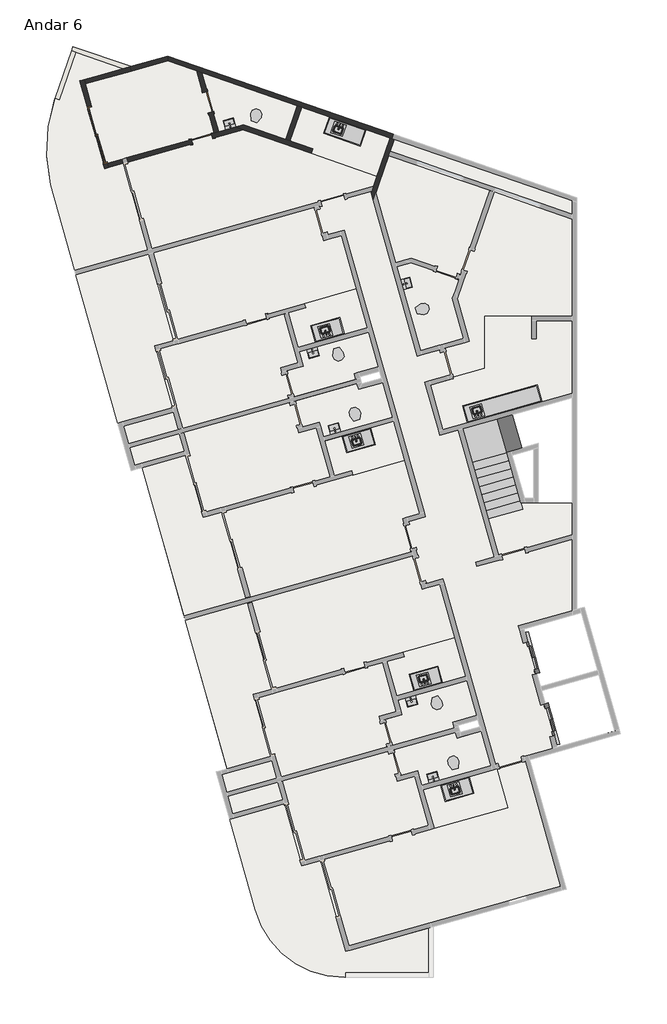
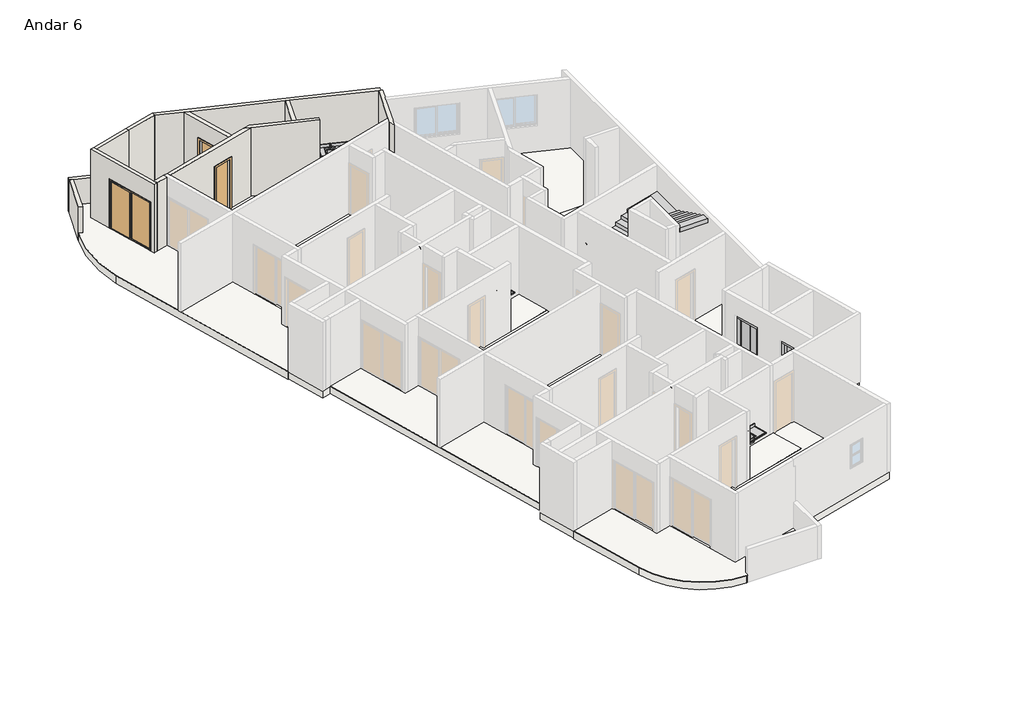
# One storey, part 3 of 3: 18 flow terminals, 18 slabs, 12 walls, 8 proxies, 3 doors, 1 stair flight.
"""IFC4 building model written with IfcOpenShell, lengths in millimetres."""

from ifc_helpers import new_model, si_unit, point, frame, frame_2d, origin, place, context, project, spatial, polyline, circle_curve, trimmed, segment, composite_curve, outline, extrude, faceted_brep, transform, mapped, element, save
from components import specialty_equipment_6c35da8b, specialty_equipment_77dfa124, rf_bancada_cozinha_rf_bancada_cozinha_340fef9f, rf_bancada_cozinha_rf_bancada_cozinha_cfb88ba1, rf_bancada_cozinha_rf_bancada_cozinha_2f873929, rf_bancada_cozinha_rf_bancada_cozinha_798ceddf, p3_70cm_ef4d15e3, p3_70cm_0a698c7c, p4_correr_200cm_eaaa0877, flow_terminal_cab7bae2, flow_terminal_3fb7dc42, flow_terminal_e42b9071, flow_terminal_c6e042c4, ap_01_creme_cr37_13e02e03, ap_01_creme_cr37_5ce6e54d

model = new_model("IFC4")

# Units and contexts
model_context = context("Model", 3, world=origin())
ifc_project = project(units=[si_unit("LENGTHUNIT", "METRE", prefix="MILLI")], contexts=[model_context])

# Site, building, storey
site = spatial("IfcSite", under=ifc_project)
building = spatial("IfcBuilding", under=site)
storey = spatial("IfcBuildingStorey", under=building, Name="Andar 6", Elevation=68150.0)

# Proxies
placement = place(None, origin())
specialty_equipment_shape = specialty_equipment_6c35da8b(model_context)
element("IfcBuildingElementProxy", 1, Name="Porta do elevador : Porta do elevador", ObjectType="Porta do elevador : Porta do elevador", at=placement, inside=storey, context=model_context, shape_type="MappedRepresentation", body=[
    mapped(specialty_equipment_shape, transform((-76594.4337486, 15747.4543727, 68150.0), x_axis=(0.27176796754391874, -0.9623628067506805, 0.0), y_axis=(0.9623628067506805, 0.27176796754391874, 0.0), z_axis=(0.0, 0.0, 1.0))),
])
specialty_equipment_2_shape = specialty_equipment_77dfa124(model_context)
element("IfcBuildingElementProxy", 2, Name="Porta do elevador : Porta do elevador", ObjectType="Porta do elevador : Porta do elevador", at=placement, inside=storey, context=model_context, shape_type="MappedRepresentation", body=[
    mapped(specialty_equipment_2_shape, transform((-75942.1906265, 13437.7836365, 68150.0), x_axis=(-0.27176796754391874, 0.9623628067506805, 0.0), y_axis=(-0.9623628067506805, -0.27176796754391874, 0.0), z_axis=(0.0, 0.0, 1.0))),
])
rf_bancada_cozinha_rf_bancada_cozinha_shape = rf_bancada_cozinha_rf_bancada_cozinha_340fef9f(model_context)
element("IfcBuildingElementProxy", 3, Name="RF_Bancada Cozinha : RF_Bancada Cozinha", ObjectType="RF_Bancada Cozinha : RF_Bancada Cozinha", at=placement, inside=storey, context=model_context, shape_type="MappedRepresentation", body=[
    mapped(rf_bancada_cozinha_rf_bancada_cozinha_shape, transform((-82760.548019, 26451.5820971, 68900.0), x_axis=(-0.9623628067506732, -0.27176796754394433, 0.0), y_axis=(0.27176796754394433, -0.9623628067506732, 0.0), z_axis=(0.0, 0.0, 1.0))),
])
element("IfcBuildingElementProxy", 4, Name="RF_Bancada Cozinha : RF_Bancada Cozinha", ObjectType="RF_Bancada Cozinha : RF_Bancada Cozinha", at=placement, inside=storey, context=model_context, shape_type="MappedRepresentation", body=[
    mapped(rf_bancada_cozinha_rf_bancada_cozinha_shape, transform((-79472.1556117, 14806.9921354, 68900.0), x_axis=(-0.962362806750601, -0.2717679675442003, 0.0), y_axis=(0.2717679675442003, -0.962362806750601, 0.0), z_axis=(0.0, 0.0, 1.0))),
])
rf_bancada_cozinha_rf_bancada_cozinha_2_shape = rf_bancada_cozinha_rf_bancada_cozinha_cfb88ba1(model_context)
element("IfcBuildingElementProxy", 5, Name="RF_Bancada Cozinha : RF_Bancada Cozinha", ObjectType="RF_Bancada Cozinha : RF_Bancada Cozinha", at=placement, inside=storey, context=model_context, shape_type="MappedRepresentation", body=[
    mapped(rf_bancada_cozinha_rf_bancada_cozinha_2_shape, transform((-81877.3021245, 23323.9029751, 68900.0), x_axis=(-0.9623628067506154, -0.27176796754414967, 0.0), y_axis=(0.27176796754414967, -0.9623628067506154, 0.0), z_axis=(0.0, 0.0, 1.0))),
])
element("IfcBuildingElementProxy", 6, Name="RF_Bancada Cozinha : RF_Bancada Cozinha", ObjectType="RF_Bancada Cozinha : RF_Bancada Cozinha", at=placement, inside=storey, context=model_context, shape_type="MappedRepresentation", body=[
    mapped(rf_bancada_cozinha_rf_bancada_cozinha_2_shape, transform((-78588.9097172, 11679.3130134, 68900.0), x_axis=(-0.9623628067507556, -0.27176796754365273, 0.0), y_axis=(0.27176796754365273, -0.9623628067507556, 0.0), z_axis=(0.0, 0.0, 1.0))),
])
rf_bancada_cozinha_rf_bancada_cozinha_3_shape = rf_bancada_cozinha_rf_bancada_cozinha_2f873929(model_context)
element("IfcBuildingElementProxy", 7, Name="RF_Bancada Cozinha : RF_Bancada Cozinha", ObjectType="RF_Bancada Cozinha : RF_Bancada Cozinha", at=placement, inside=storey, context=model_context, shape_type="MappedRepresentation", body=[
    mapped(rf_bancada_cozinha_rf_bancada_cozinha_3_shape, transform((-82030.0326121, 33293.9830661, 68900.0), x_axis=(-0.9449109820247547, 0.32732741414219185, 0.0), y_axis=(-0.32732741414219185, -0.9449109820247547, 0.0), z_axis=(0.0, 0.0, 1.0))),
])
rf_bancada_cozinha_rf_bancada_cozinha_4_shape = rf_bancada_cozinha_rf_bancada_cozinha_798ceddf(model_context)
element("IfcBuildingElementProxy", 8, Name="RF_Bancada Cozinha : RF_Bancada Cozinha", ObjectType="RF_Bancada Cozinha : RF_Bancada Cozinha", at=placement, inside=storey, context=model_context, shape_type="MappedRepresentation", body=[
    mapped(rf_bancada_cozinha_rf_bancada_cozinha_4_shape, transform((-76157.6622331, 24197.9763092, 68900.0), x_axis=(-0.9623628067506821, -0.27176796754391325, 0.0), y_axis=(0.27176796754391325, -0.9623628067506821, 0.0), z_axis=(0.0, 0.0, 1.0))),
])

# Doors
p3_70cm_shape = p3_70cm_ef4d15e3(model_context)
element("IfcDoor", 9, ObjectType="M_Folha única1 : P3 - 70CM", at=placement, inside=storey, context=model_context, shape_type="MappedRepresentation", body=[
    mapped(p3_70cm_shape, transform((-87513.806232, 32980.5300491, 68150.0), x_axis=(0.9623628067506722, 0.2717679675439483, 0.0), y_axis=(-0.2717679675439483, 0.9623628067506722, 0.0), z_axis=(0.0, 0.0, 1.0))),
])
p3_70cm_2_shape = p3_70cm_0a698c7c(model_context)
element("IfcDoor", 10, ObjectType="M_Folha única1 : P3 - 70CM", at=placement, inside=storey, context=model_context, shape_type="MappedRepresentation", body=[
    mapped(p3_70cm_2_shape, transform((-87314.304722, 34205.8663896, 68150.0), x_axis=(-0.2717679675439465, 0.9623628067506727, 0.0), y_axis=(-0.9623628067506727, -0.2717679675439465, 0.0), z_axis=(0.0, 0.0, 1.0))),
])
p4_correr_200cm_shape = p4_correr_200cm_eaaa0877(model_context)
element("IfcDoor", 11, ObjectType="Porta de correr dupla envidraçada sem revestimento : P4 - CORRER - 200CM", at=placement, inside=storey, context=model_context, shape_type="MappedRepresentation", body=[
    mapped(p4_correr_200cm_shape, transform((-91005.8131296, 33111.4415743, 68150.0), x_axis=(0.2717679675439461, -0.9623628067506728, 0.0), y_axis=(0.9623628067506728, 0.2717679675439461, 0.0), z_axis=(0.0, 0.0, 1.0))),
])

# Flow terminals
flow_terminal_shape = flow_terminal_cab7bae2(model_context)
element("IfcFlowTerminal", 12, ObjectType="RF_Pias : Pia da Bancada", at=placement, inside=storey, context=model_context, shape_type="MappedRepresentation", body=[
    mapped(flow_terminal_shape, transform((-83380.5102831, 26570.4992214, 68002.9), x_axis=(-0.9623628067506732, -0.27176796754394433, 0.0), y_axis=(0.27176796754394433, -0.9623628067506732, 0.0), z_axis=(0.0, 0.0, 1.0))),
])
element("IfcFlowTerminal", 13, ObjectType="RF_Pias : Pia da Bancada", at=placement, inside=storey, context=model_context, shape_type="MappedRepresentation", body=[
    mapped(flow_terminal_shape, transform((-80092.1178758, 14925.9092597, 68002.9), x_axis=(-0.962362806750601, -0.2717679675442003, 0.0), y_axis=(0.2717679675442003, -0.962362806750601, 0.0), z_axis=(0.0, 0.0, 1.0))),
])
element("IfcFlowTerminal", 14, ObjectType="RF_Pias : Pia da Bancada", at=placement, inside=storey, context=model_context, shape_type="MappedRepresentation", body=[
    mapped(flow_terminal_shape, transform((-78306.8185143, 23885.0542694, 68002.9), x_axis=(-0.9623628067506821, -0.27176796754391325, 0.0), y_axis=(0.27176796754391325, -0.9623628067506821, 0.0), z_axis=(0.0, 0.0, 1.0))),
])
flow_terminal_2_shape = flow_terminal_3fb7dc42(model_context)
element("IfcFlowTerminal", 15, ObjectType="Deca_Cuba de Apoio Retangular_L7300 : L.7300.17_Branco Gelo GE17", at=placement, inside=storey, context=model_context, shape_type="MappedRepresentation", body=[
    mapped(flow_terminal_2_shape, transform((-83090.0822283, 23308.7374016, 68900.0), x_axis=(-0.9623628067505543, -0.2717679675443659, 0.0), y_axis=(0.2717679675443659, -0.9623628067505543, 0.0), z_axis=(0.0, 0.0, 1.0))),
])
element("IfcFlowTerminal", 16, ObjectType="Deca_Cuba de Apoio Retangular_L7300 : L.7300.17_Branco Gelo GE17", at=placement, inside=storey, context=model_context, shape_type="MappedRepresentation", body=[
    mapped(flow_terminal_2_shape, transform((-79801.689821, 11664.1474399, 68900.0), x_axis=(-0.9623628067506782, -0.2717679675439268, 0.0), y_axis=(0.2717679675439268, -0.9623628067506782, 0.0), z_axis=(0.0, 0.0, 1.0))),
])
element("IfcFlowTerminal", 17, ObjectType="Deca_Cuba de Apoio Retangular_L7300 : L.7300.17_Branco Gelo GE17", at=placement, inside=storey, context=model_context, shape_type="MappedRepresentation", body=[
    mapped(flow_terminal_2_shape, transform((-80677.0991462, 28154.8020678, 68900.0), x_axis=(-0.2717679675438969, 0.9623628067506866, 0.0), y_axis=(-0.9623628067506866, -0.2717679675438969, 0.0), z_axis=(0.0, 0.0, 1.0))),
])
element("IfcFlowTerminal", 18, ObjectType="Deca_Cuba de Apoio Retangular_L7300 : L.7300.17_Branco Gelo GE17", at=placement, inside=storey, context=model_context, shape_type="MappedRepresentation", body=[
    mapped(flow_terminal_2_shape, transform((-86597.4204814, 33488.7004496, 68900.0), x_axis=(-0.9623628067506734, -0.27176796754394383, 0.0), y_axis=(0.27176796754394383, -0.9623628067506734, 0.0), z_axis=(0.0, 0.0, 1.0))),
])
flow_terminal_3_shape = flow_terminal_e42b9071(model_context)
element("IfcFlowTerminal", 19, ObjectType="Deca_Cuba de Apoio Retangular_L7300 : L.7300.17_Branco Gelo GE17", at=placement, inside=storey, context=model_context, shape_type="MappedRepresentation", body=[
    mapped(flow_terminal_3_shape, transform((-83802.1143033, 25830.1279553, 68900.0), x_axis=(-0.9623628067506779, -0.2717679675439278, 0.0), y_axis=(0.2717679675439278, -0.9623628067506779, 0.0), z_axis=(0.0, 0.0, 1.0))),
])
element("IfcFlowTerminal", 20, ObjectType="Deca_Cuba de Apoio Retangular_L7300 : L.7300.17_Branco Gelo GE17", at=placement, inside=storey, context=model_context, shape_type="MappedRepresentation", body=[
    mapped(flow_terminal_3_shape, transform((-80513.721896, 14185.5379936, 68900.0), x_axis=(-0.962362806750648, -0.27176796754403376, 0.0), y_axis=(0.27176796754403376, -0.962362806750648, 0.0), z_axis=(0.0, 0.0, 1.0))),
])
flow_terminal_4_shape = flow_terminal_c6e042c4(model_context)
element("IfcFlowTerminal", 21, ObjectType="RF_Pias : Pia da Bancada", at=placement, inside=storey, context=model_context, shape_type="MappedRepresentation", body=[
    mapped(flow_terminal_4_shape, transform((-82343.483233, 22898.2626745, 68002.9), x_axis=(-0.9623628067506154, -0.27176796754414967, 0.0), y_axis=(0.27176796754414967, -0.9623628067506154, 0.0), z_axis=(0.0, 0.0, 1.0))),
])
element("IfcFlowTerminal", 22, ObjectType="RF_Pias : Pia da Bancada", at=placement, inside=storey, context=model_context, shape_type="MappedRepresentation", body=[
    mapped(flow_terminal_4_shape, transform((-79055.0908257, 11253.6727129, 68002.9), x_axis=(-0.9623628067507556, -0.27176796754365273, 0.0), y_axis=(0.27176796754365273, -0.9623628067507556, 0.0), z_axis=(0.0, 0.0, 1.0))),
])
element("IfcFlowTerminal", 23, ObjectType="RF_Pias : Pia da Bancada", at=placement, inside=storey, context=model_context, shape_type="MappedRepresentation", body=[
    mapped(flow_terminal_4_shape, transform((-82939.3392028, 33309.5545572, 68002.9), x_axis=(-0.9449109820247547, 0.32732741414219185, 0.0), y_axis=(-0.32732741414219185, -0.9449109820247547, 0.0), z_axis=(0.0, 0.0, 1.0))),
])
ap_01_creme_cr37_shape = ap_01_creme_cr37_13e02e03(model_context)
element("IfcFlowTerminal", 24, ObjectType="Deca_Shared_Assento_P.900 : AP.01_Creme CR37", at=placement, inside=storey, context=model_context, shape_type="MappedRepresentation", body=[
    mapped(ap_01_creme_cr37_shape, transform((-83017.5301151, 25983.4740486, 68537.8723674), x_axis=(0.9623628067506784, 0.2717679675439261, 0.0), y_axis=(0.0, 0.0, 1.0), z_axis=(0.2717679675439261, -0.9623628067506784, 0.0))),
])
element("IfcFlowTerminal", 25, ObjectType="Deca_Shared_Assento_P.900 : AP.01_Creme CR37", at=placement, inside=storey, context=model_context, shape_type="MappedRepresentation", body=[
    mapped(ap_01_creme_cr37_shape, transform((-79729.1377078, 14338.8840869, 68537.8723674), x_axis=(0.962362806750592, 0.2717679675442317, 0.0), y_axis=(0.0, 0.0, 1.0), z_axis=(0.2717679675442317, -0.962362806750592, 0.0))),
])
element("IfcFlowTerminal", 26, ObjectType="Deca_Shared_Assento_P.900 : AP.01_Creme CR37", at=placement, inside=storey, context=model_context, shape_type="MappedRepresentation", body=[
    mapped(ap_01_creme_cr37_shape, transform((-80349.5164684, 27236.3600819, 68537.8723674), x_axis=(-0.271767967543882, 0.9623628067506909, 0.0), y_axis=(0.0, 0.0, 1.0), z_axis=(0.9623628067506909, 0.271767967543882, 0.0))),
])
element("IfcFlowTerminal", 27, ObjectType="Deca_Shared_Assento_P.900 : AP.01_Creme CR37", at=placement, inside=storey, context=model_context, shape_type="MappedRepresentation", body=[
    mapped(ap_01_creme_cr37_shape, transform((-85777.8760768, 33566.4131555, 68537.8723674), x_axis=(-0.9449109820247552, 0.3273274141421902, 0.0), y_axis=(0.0, 0.0, 1.0000000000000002), z_axis=(0.3273274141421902, 0.9449109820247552, 0.0))),
])
ap_01_creme_cr37_2_shape = ap_01_creme_cr37_5ce6e54d(model_context)
element("IfcFlowTerminal", 28, ObjectType="Deca_Shared_Assento_P.900 : AP.01_Creme CR37", at=placement, inside=storey, context=model_context, shape_type="MappedRepresentation", body=[
    mapped(ap_01_creme_cr37_2_shape, transform((-82341.1813229, 23588.4422577, 68537.8723674), x_axis=(0.9623628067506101, 0.27176796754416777, 0.0), y_axis=(0.0, 0.0, -1.0), z_axis=(-0.27176796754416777, 0.9623628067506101, 0.0))),
])
element("IfcFlowTerminal", 29, ObjectType="Deca_Shared_Assento_P.900 : AP.01_Creme CR37", at=placement, inside=storey, context=model_context, shape_type="MappedRepresentation", body=[
    mapped(ap_01_creme_cr37_2_shape, transform((-79052.7889156, 11943.852296, 68537.8723674), x_axis=(0.9623628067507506, 0.2717679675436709, 0.0), y_axis=(0.0, 0.0, -1.0000000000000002), z_axis=(-0.2717679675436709, 0.9623628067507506, 0.0))),
])

# Slabs
element("IfcSlab", 30, ObjectType="TZ_Piso de Áreas Molhadas", at=placement, inside=storey, context=model_context, shape_type="SweptSolid", body=[
    extrude(outline(composite_curve([segment(polyline([(-90765.4571774, 31984.341749), (-90143.7425806, 32159.9118263), (-89328.438678, 29272.823406), (-91766.0080564, 28584.4621444), (-92573.2320087, 31442.9384962)]), True, "CONTINUOUS"), segment(trimmed(circle_curve(frame_2d((-87414.5556743, 32622.5665107)), 5291.829908), [point((-92573.2320087, 31442.9384962))], [point((-92422.0860726, 34333.7366032))], False, "CARTESIAN"), True, "CONTINUOUS"), segment(polyline([(-92422.0860726, 34333.7366032), (-92280.2794148, 34284.6132387), (-91729.7010481, 35873.9929322), (-90151.0501028, 35327.1311202), (-91594.3494784, 34919.5483093), (-90765.4571774, 31984.341749)]), True, "CONTINUOUS")], self_intersect=False)), frame((0.0, 0.0, 68150.0), z_axis=(0.0, 0.0, 1.0), x_axis=(1.0, 0.0, 0.0)), (0.0, 0.0, 1.0), 20.0),
])
element("IfcSlab", 31, ObjectType="TZ_Piso de Áreas Molhadas", at=placement, inside=storey, context=model_context, shape_type="SweptSolid", body=[
    extrude(outline(polyline([(-88472.3695802, 26241.3805647), (-89094.084177, 26065.8104874), (-88509.7830468, 23996.7304529), (-90325.6378284, 23483.9392686), (-91725.2428613, 28440.1077234), (-89287.6734828, 29128.468985), (-88472.3695802, 26241.3805647)])), frame((0.0, 0.0, 68150.0), z_axis=(0.0, 0.0, 1.0), x_axis=(1.0, 0.0, 0.0)), (0.0, 0.0, 1.0), 20.0),
])
element("IfcSlab", 32, ObjectType="TZ_Piso de Áreas Molhadas", at=placement, inside=storey, context=model_context, shape_type="SweptSolid", body=[
    extrude(outline(polyline([(-86855.3501733, 20515.3218645), (-86040.0462707, 17628.2334443), (-88109.1263052, 17043.9323141), (-89508.731338, 22000.1007688), (-88061.3659003, 22408.8318218), (-87477.0647701, 20339.7517872), (-86855.3501733, 20515.3218645)])), frame((0.0, 0.0, 68150.0), z_axis=(0.0, 0.0, 1.0), x_axis=(1.0, 0.0, 0.0)), (0.0, 0.0, 1.0), 20.0),
])
element("IfcSlab", 33, ObjectType="TZ_Piso de Áreas Molhadas", at=placement, inside=storey, context=model_context, shape_type="SweptSolid", body=[
    extrude(outline(polyline([(-78926.5637691, 28284.9851582), (-79146.9727346, 27648.7205404), (-78771.1333302, 26317.8283554), (-80214.6775403, 25910.176404), (-81004.3851492, 28706.6252933), (-80530.2499593, 28840.5194505), (-78926.5637691, 28284.9851582)])), frame((0.0, 0.0, 68150.0), z_axis=(0.0, 0.0, 1.0), x_axis=(1.0, 0.0, 0.0)), (0.0, 0.0, 1.0), 20.0),
])
element("IfcSlab", 34, ObjectType="TZ_Piso de Áreas Molhadas", at=placement, inside=storey, context=model_context, shape_type="SweptSolid", body=[
    extrude(outline(polyline([(-78070.9150345, 27060.8243598), (-76493.6479314, 27060.8243598), (-76493.6479314, 26310.8243598), (-76343.6479314, 26310.8243598), (-76343.6479314, 26910.8243598), (-75147.8282189, 26910.8243598), (-75147.8282189, 24483.4871675), (-79467.3156296, 23263.6786855), (-79888.5559793, 24755.3410359), (-79127.7601479, 24970.1871785), (-79141.3485461, 25018.3053183), (-78070.9150345, 25320.5920836), (-78070.9150345, 27060.8243598)])), frame((0.0, 0.0, 68150.0), z_axis=(0.0, 0.0, 1.0), x_axis=(1.0, 0.0, 0.0)), (0.0, 0.0, 1.0), 20.0),
])
element("IfcSlab", 35, ObjectType="TZ_Piso de Áreas Molhadas", at=placement, inside=storey, context=model_context, shape_type="SweptSolid", body=[
    extrude(outline(polyline([(-84719.4810559, 32955.6762822), (-86137.8721095, 33447.0223292), (-86956.7711455, 33215.7680402), (-87515.4733556, 35194.1992432), (-84326.6881589, 34089.5694606), (-84719.4810559, 32955.6762822)])), frame((0.0, 0.0, 68150.0), z_axis=(0.0, 0.0, 1.0), x_axis=(1.0, 0.0, 0.0)), (0.0, 0.0, 1.0), 20.0),
])
element("IfcSlab", 36, ObjectType="TZ_Piso de Áreas Molhadas", at=placement, inside=storey, context=model_context, shape_type="SweptSolid", body=[
    extrude(outline(polyline([(-84577.7444086, 32906.57717), (-84184.9515116, 34040.4703485), (-81226.8582774, 33015.7547641), (-81668.7502865, 31740.1249383), (-83870.9147351, 32502.9785914), (-83821.815623, 32644.7152387), (-84577.7444086, 32906.57717)])), frame((0.0, 0.0, 68150.0), z_axis=(0.0, 0.0, 1.0), x_axis=(1.0, 0.0, 0.0)), (0.0, 0.0, 1.0), 20.0),
])
element("IfcSlab", 37, ObjectType="TZ_Piso de Áreas Molhadas", at=placement, inside=storey, context=model_context, shape_type="SweptSolid", body=[
    extrude(outline(polyline([(-81949.8925784, 26524.6420501), (-81623.7710174, 25369.806682), (-82432.1557751, 25141.5215893), (-82377.8021816, 24949.0490279), (-84456.5058441, 24362.030218), (-84701.0970149, 25228.1567441), (-84123.6793309, 25391.2175246), (-84259.5633146, 25872.398928), (-81949.8925784, 26524.6420501)])), frame((0.0, 0.0, 68150.0), z_axis=(0.0, 0.0, 1.0), x_axis=(1.0, 0.0, 0.0)), (0.0, 0.0, 1.0), 20.0),
])
element("IfcSlab", 38, ObjectType="TZ_Piso de Áreas Molhadas", at=placement, inside=storey, context=model_context, shape_type="SweptSolid", body=[
    extrude(outline(polyline([(-84089.7975819, 27479.0039186), (-82357.5445298, 27968.1862602), (-81990.6577736, 26668.9964711), (-84300.3285098, 26016.753349), (-84626.4500708, 27171.5887171), (-84049.0323868, 27334.6494976), (-84089.7975819, 27479.0039186)])), frame((0.0, 0.0, 68150.0), z_axis=(0.0, 0.0, 1.0), x_axis=(1.0, 0.0, 0.0)), (0.0, 0.0, 1.0), 20.0),
])
element("IfcSlab", 39, ObjectType="TZ_Piso de Áreas Molhadas", at=placement, inside=storey, context=model_context, shape_type="SweptSolid", body=[
    extrude(outline(polyline([(-84171.1494782, 23351.5492709), (-84415.740649, 24217.675797), (-82337.0369864, 24804.6946069), (-82282.6833929, 24612.2220455), (-81474.2986352, 24840.5071383), (-81148.1770742, 23685.6717702), (-83457.8478104, 23033.4286481), (-83593.7317942, 23514.6100514), (-84171.1494782, 23351.5492709)])), frame((0.0, 0.0, 68150.0), z_axis=(0.0, 0.0, 1.0), x_axis=(1.0, 0.0, 0.0)), (0.0, 0.0, 1.0), 20.0),
])
element("IfcSlab", 40, ObjectType="TZ_Piso de Áreas Molhadas", at=placement, inside=storey, context=model_context, shape_type="SweptSolid", body=[
    extrude(outline(composite_curve([segment(polyline([(-79945.4990038, 5119.4122055), (-82713.5540687, 5119.4122055), (-82713.5540687, 4969.4122055), (-82751.3896972, 4969.4122055)]), True, "CONTINUOUS"), segment(trimmed(circle_curve(frame_2d((-82751.3896972, 8069.4122055)), 3100.0), [point((-82751.3896972, 4969.4122055))], [point((-85734.7143981, 7226.9315061))], False, "CARTESIAN"), True, "CONTINUOUS"), segment(polyline([(-85734.7143981, 7226.9315061), (-86588.8282733, 10251.4506708), (-84772.9735093, 10764.2419177), (-84188.6722855, 8695.1618243), (-83566.957766, 8870.7319029), (-82710.8885369, 5839.2889958), (-79945.4990038, 6620.2256515), (-79945.4990038, 5119.4122055)]), True, "CONTINUOUS")], self_intersect=False)), frame((0.0, 0.0, 68150.0), z_axis=(0.0, 0.0, 1.0), x_axis=(1.0, 0.0, 0.0)), (0.0, 0.0, 1.0), 20.0),
])
element("IfcSlab", 41, ObjectType="TZ_Piso de Áreas Molhadas", at=placement, inside=storey, context=model_context, shape_type="SweptSolid", body=[
    extrude(outline(polyline([(-78185.906228, 13195.9171766), (-77859.7846669, 12041.0818085), (-80169.4554031, 11388.8386864), (-80305.3393869, 11870.0200898), (-80882.7570709, 11706.9593092), (-81127.3482417, 12573.0858353), (-79048.6445791, 13160.1046452), (-78994.2909856, 12967.6320839), (-78185.906228, 13195.9171766)])), frame((0.0, 0.0, 68150.0), z_axis=(0.0, 0.0, 1.0), x_axis=(1.0, 0.0, 0.0)), (0.0, 0.0, 1.0), 20.0),
])
element("IfcSlab", 42, ObjectType="TZ_Piso de Áreas Molhadas", at=placement, inside=storey, context=model_context, shape_type="SweptSolid", body=[
    extrude(outline(polyline([(-77307.7782946, 10638.3027935), (-79761.8034518, 9945.2944763), (-80128.690208, 11244.4842654), (-77674.6650508, 11937.4925826), (-77307.7782946, 10638.3027935)])), frame((0.0, 0.0, 68150.0), z_axis=(0.0, 0.0, 1.0), x_axis=(1.0, 0.0, 0.0)), (0.0, 0.0, 1.0), 20.0),
])
element("IfcSlab", 43, ObjectType="TZ_Piso de Áreas Molhadas", at=placement, inside=storey, context=model_context, shape_type="SweptSolid", body=[
    extrude(outline(polyline([(-81107.9410005, 23543.1910314), (-80740.5251229, 22242.1275601), (-82472.778175, 21752.9452185), (-82513.5433702, 21897.2996395), (-83090.9610542, 21734.238859), (-83418.0192411, 22888.8089065), (-81107.9410005, 23543.1910314)])), frame((0.0, 0.0, 68150.0), z_axis=(0.0, 0.0, 1.0), x_axis=(1.0, 0.0, 0.0)), (0.0, 0.0, 1.0), 20.0),
])
element("IfcSlab", 44, ObjectType="TZ_Piso de Áreas Molhadas", at=placement, inside=storey, context=model_context, shape_type="SweptSolid", body=[
    extrude(outline(polyline([(-85183.9771729, 14596.790603), (-85805.6917697, 14421.2205257), (-85221.3906395, 12352.1404912), (-86668.7560772, 11943.4094383), (-88068.36111, 16899.5778931), (-85999.2810755, 17483.8790233), (-85183.9771729, 14596.790603)])), frame((0.0, 0.0, 68150.0), z_axis=(0.0, 0.0, 1.0), x_axis=(1.0, 0.0, 0.0)), (0.0, 0.0, 1.0), 20.0),
])
element("IfcSlab", 45, ObjectType="TZ_Piso de Áreas Molhadas", at=placement, inside=storey, context=model_context, shape_type="SweptSolid", body=[
    extrude(outline(polyline([(-81412.7046076, 13583.5667824), (-80835.2869236, 13746.6275629), (-80971.1709074, 14227.8089663), (-78661.5001712, 14880.0520884), (-78335.3786101, 13725.2167203), (-79143.7633678, 13496.9316276), (-79089.4097743, 13304.4590662), (-81168.1134368, 12717.4402563), (-81412.7046076, 13583.5667824)])), frame((0.0, 0.0, 68150.0), z_axis=(0.0, 0.0, 1.0), x_axis=(1.0, 0.0, 0.0)), (0.0, 0.0, 1.0), 20.0),
])
element("IfcSlab", 46, ObjectType="TZ_Piso de Áreas Molhadas", at=placement, inside=storey, context=model_context, shape_type="SweptSolid", body=[
    extrude(outline(polyline([(-78701.7362448, 15022.5328272), (-81012.8731576, 14371.8995868), (-81338.0576635, 15526.9987554), (-80760.6399795, 15690.059536), (-80801.4051746, 15834.413957), (-79069.1521225, 16323.5962985), (-78701.7362448, 15022.5328272)])), frame((0.0, 0.0, 68150.0), z_axis=(0.0, 0.0, 1.0), x_axis=(1.0, 0.0, 0.0)), (0.0, 0.0, 1.0), 20.0),
])
element("IfcSlab", 47, ObjectType="TZ_Laje 30cm", at=placement, inside=storey, context=model_context, shape_type="SweptSolid", body=[
    extrude(outline(composite_curve([segment(polyline([(-82713.5540687, 4969.4122055), (-82751.3896972, 4969.4122055)]), True, "CONTINUOUS"), segment(trimmed(circle_curve(frame_2d((-82751.3896972, 8069.4122055)), 3100.0), [point((-82751.3896972, 4969.4122055))], [point((-85734.7143981, 7226.9315061))], False, "CARTESIAN"), True, "CONTINUOUS"), segment(polyline([(-85734.7143981, 7226.9315061), (-86588.8282747, 10251.4506758), (-86574.3928326, 10255.5271953), (-87018.7334595, 11828.9903844), (-86664.6795577, 11928.9739962), (-89512.8078575, 22014.5362109), (-89866.8617594, 21914.5525991), (-90311.2023863, 23488.0157882), (-90325.6378284, 23483.9392686), (-92573.2320087, 31442.9384962)]), True, "CONTINUOUS"), segment(trimmed(circle_curve(frame_2d((-87414.5556743, 32622.5665107)), 5291.829908), [point((-92573.2320087, 31442.9384962))], [point((-92426.4466323, 34320.9224218))], False, "CARTESIAN"), True, "CONTINUOUS"), segment(polyline([(-92426.4466323, 34320.9224218), (-92422.0160621, 34333.7123509), (-92403.1178425, 34327.1658026), (-91809.986912, 36039.3839237), (-89899.2062586, 35377.468778), (-88658.6666899, 35727.7929124), (-75017.8282189, 31002.4584964), (-75017.8282189, 17238.3098681), (-74750.7083414, 17313.7436086), (-73565.8000029, 13117.8417711), (-76592.4310301, 12263.1315132), (-75369.6745845, 7933.2050117), (-79815.4990038, 6677.7193903), (-79815.4990038, 4989.4122055), (-82713.5540687, 4989.4122055), (-82713.5540687, 4969.4122055)]), True, "CONTINUOUS")], self_intersect=False), holes=[polyline([(-81583.0058223, 25225.452261), (-82247.0361589, 25037.9323634), (-82179.094167, 24797.3416617), (-81515.0638304, 24984.8615593), (-81583.0058223, 25225.452261)]), polyline([(-78294.613415, 13580.8622993), (-78958.6437516, 13393.3424017), (-78890.7017597, 13152.7517), (-78226.6714231, 13340.2715976), (-78294.613415, 13580.8622993)]), polyline([(-74840.4856705, 17153.3066079), (-76760.3994699, 16611.1295126), (-76221.8794944, 14704.1660107), (-75646.150803, 12665.442005), (-73726.2370035, 13207.6191002), (-74270.7319215, 15135.7405865), (-74840.4856705, 17153.3066079)]), polyline([(-77952.9130698, 20291.1915783), (-76801.2963825, 20616.4041949), (-76858.5413412, 20819.1154254), (-75147.8282189, 20819.1154254), (-75147.8282189, 24343.0530162), (-78807.9060206, 23309.4595541), (-77952.9130698, 20291.1915783)])]), frame((0.0, 0.0, 67850.0), z_axis=(0.0, 0.0, 1.0), x_axis=(1.0, 0.0, 0.0)), (0.0, 0.0, 1.0), 300.0),
])

# Stair flight
element("IfcStairFlight", 48, ObjectType="Profundidade de 150mm", at=placement, inside=storey, context=model_context, shape_type="Brep", body=[
    faceted_brep([(-78029.0944782, 20560.1246789, 68288.0952381), (-77952.7808761, 20290.7249124, 68288.0952381), (-76802.2714069, 20616.6328483, 68288.0952381), (-76878.3664628, 20886.0945229, 68288.0952381), (-78029.0944782, 20560.1246789, 68150.0), (-77952.7808761, 20290.7249124, 68150.0), (-76802.2714069, 20616.6328483, 68150.0), (-76878.3664628, 20886.0945229, 68150.0), (-78105.4080802, 20829.5244453, 68426.1904762), (-78029.0944782, 20560.1246789, 68426.1904762), (-76878.3664628, 20886.0945229, 68426.1904762), (-76954.4615188, 21155.5561975, 68426.1904762), (-78105.4080802, 20829.5244453, 68258.939228), (-78045.2065482, 20617.0029783, 68150.0), (-76894.4323913, 20942.985893, 68150.0), (-76954.4615188, 21155.5561975, 68258.939228), (-78181.7216823, 21098.9242117, 68564.2857143), (-78105.4080802, 20829.5244453, 68564.2857143), (-76954.4615188, 21155.5561975, 68564.2857143), (-77030.5565747, 21425.017872, 68564.2857143), (-78181.7216823, 21098.9242117, 68397.0344661), (-77030.5565747, 21425.017872, 68397.0344661), (-78258.0352843, 21368.3239781, 68702.3809524), (-78181.7216823, 21098.9242117, 68702.3809524), (-77030.5565747, 21425.017872, 68702.3809524), (-77106.6516307, 21694.4795466, 68702.3809524), (-78258.0352843, 21368.3239781, 68535.1297042), (-77106.6516307, 21694.4795466, 68535.1297042), (-78334.3488864, 21637.7237445, 68840.4761905), (-78258.0352843, 21368.3239781, 68840.4761905), (-77106.6516307, 21694.4795466, 68840.4761905), (-77182.7466866, 21963.9412211, 68840.4761905), (-78334.3488864, 21637.7237445, 68673.2249423), (-77182.7466866, 21963.9412211, 68673.2249423), (-78410.6624885, 21907.1235109, 68978.5714286), (-78334.3488864, 21637.7237445, 68978.5714286), (-77182.7466866, 21963.9412211, 68978.5714286), (-77258.8417426, 22233.4028957, 68978.5714286), (-78410.6624885, 21907.1235109, 68811.3201804), (-77258.8417426, 22233.4028957, 68811.3201804), (-78486.9760905, 22176.5232773, 69116.6666667), (-78410.6624885, 21907.1235109, 69116.6666667), (-77258.8417426, 22233.4028957, 69116.6666667), (-77334.9367985, 22502.8645702, 69116.6666667), (-78486.9760905, 22176.5232773, 68949.4154185), (-77334.9367985, 22502.8645702, 68949.4154185), (-77650.6473278, 23620.8332322, 69254.7619048), (-78803.8582924, 23295.1703972, 69254.7619048), (-78572.8230038, 22479.5772253, 69254.7619048), (-78486.9760905, 22176.5232773, 69254.7619048), (-77334.9367985, 22502.8645702, 69254.7619048), (-77337.6544782, 22512.4881983, 69254.7619048), (-77650.6473278, 23620.8332322, 69104.7619048), (-78803.8582924, 23295.1703972, 69104.7619048), (-78572.8230038, 22479.5772253, 69104.7619048), (-77420.5378643, 22805.9881601, 69104.7619048), (-77337.6544782, 22512.4881983, 69104.7619048), (-77650.6473278, 23620.8332322, 69392.8571429), (-77337.6544782, 22512.4881983, 69392.8571429), (-77303.5536842, 22522.118146, 69392.8571429), (-77083.6709973, 22584.2122653, 69392.8571429), (-77396.6638468, 23692.5572992, 69392.8571429), (-77616.5465338, 23630.4631799, 69392.8571429), (-77396.6638468, 23692.5572992, 69219.0904432), (-77616.5465338, 23630.4631799, 69104.7619048), (-77303.5536842, 22522.118146, 69104.7619048), (-77083.6709973, 22584.2122653, 69219.0904432), (-77127.202261, 23768.6523301, 69530.952381), (-77396.6638468, 23692.5572992, 69530.952381), (-77083.6709973, 22584.2122653, 69530.952381), (-76814.2094114, 22660.3072962, 69530.952381), (-77127.202261, 23768.6523301, 69359.1976509), (-76814.2094114, 22660.3072962, 69359.1976509), (-76857.7406751, 23844.747361, 69669.047619), (-77127.202261, 23768.6523301, 69669.047619), (-76814.2094114, 22660.3072962, 69669.047619), (-76544.7478255, 22736.4023271, 69669.047619), (-76857.7406751, 23844.747361, 69499.3048586), (-76544.7478255, 22736.4023271, 69499.3048586), (-76588.2790892, 23920.842392, 69807.1428571), (-76857.7406751, 23844.747361, 69807.1428571), (-76544.7478255, 22736.4023271, 69807.1428571), (-76275.2862396, 22812.497358, 69807.1428571), (-76588.2790892, 23920.842392, 69639.4120663), (-75975.593386, 22897.1295956, 69795.2380952), (-76275.2862396, 22812.497358, 69795.2380952), (-75147.8282189, 22779.1154254, 69945.2380952), (-75147.8282189, 24327.6207947, 69945.2380952), (-76288.5862355, 24005.4746296, 69945.2380952), (-76588.2790892, 23920.842392, 69945.2380952), (-76275.2862396, 22812.497358, 69945.2380952), (-76275.2862396, 22779.1154254, 69945.2380952), (-75147.8282189, 22779.1154254, 69795.2380952), (-75147.8282189, 24327.6207947, 69795.2380952), (-76288.5862355, 24005.4746296, 69795.2380952), (-76275.2862396, 22779.1154254, 69795.2380952), (-75147.8282189, 22779.1154254, 70083.3333333), (-76275.2862396, 22779.1154254, 70083.3333333), (-76275.2862396, 22744.1370326, 70083.3333333), (-76275.2862396, 22499.1154254, 70083.3333333), (-75147.8282189, 22499.1154254, 70083.3333333), (-75147.8282189, 22744.1370326, 70083.3333333), (-75147.8282189, 22499.1154254, 69916.0820852), (-75147.8282189, 22744.1370326, 69795.2380952), (-76275.2862396, 22744.1370326, 69795.2380952), (-76275.2862396, 22499.1154254, 69916.0820852), (-75147.8282189, 22219.1154254, 70221.4285714), (-75147.8282189, 22499.1154254, 70221.4285714), (-76275.2862396, 22499.1154254, 70221.4285714), (-76275.2862396, 22219.1154254, 70221.4285714), (-75147.8282189, 22219.1154254, 70054.1773233), (-76275.2862396, 22219.1154254, 70054.1773233), (-75147.8282189, 21939.1154254, 70359.5238095), (-75147.8282189, 22219.1154254, 70359.5238095), (-76275.2862396, 22219.1154254, 70359.5238095), (-76275.2862396, 21939.1154254, 70359.5238095), (-75147.8282189, 21939.1154254, 70192.2725614), (-76275.2862396, 21939.1154254, 70192.2725614), (-75147.8282189, 21659.1154254, 70497.6190476), (-75147.8282189, 21939.1154254, 70497.6190476), (-76275.2862396, 21939.1154254, 70497.6190476), (-76275.2862396, 21659.1154254, 70497.6190476), (-75147.8282189, 21659.1154254, 70330.3677995), (-76275.2862396, 21659.1154254, 70330.3677995), (-75147.8282189, 21379.1154254, 70635.7142857), (-75147.8282189, 21659.1154254, 70635.7142857), (-76275.2862396, 21659.1154254, 70635.7142857), (-76275.2862396, 21379.1154254, 70635.7142857), (-75147.8282189, 21379.1154254, 70468.4630376), (-76275.2862396, 21379.1154254, 70468.4630376), (-75147.8282189, 21099.1154254, 70773.8095238), (-75147.8282189, 21379.1154254, 70773.8095238), (-76275.2862396, 21379.1154254, 70773.8095238), (-76275.2862396, 21099.1154254, 70773.8095238), (-75147.8282189, 21099.1154254, 70606.5582757), (-76275.2862396, 21099.1154254, 70606.5582757), (-75147.8282189, 20819.1154254, 70911.9047619), (-75147.8282189, 21099.1154254, 70911.9047619), (-76275.2862396, 21099.1154254, 70911.9047619), (-76275.2862396, 20819.1154254, 70911.9047619), (-75147.8282189, 20819.1154254, 70744.6535138), (-76275.2862396, 20819.1154254, 70744.6535138), (-76275.2862396, 23958.3777566, 69795.2380952)], [[[0, 1, 2, 3]], [[1, 0, 4, 5]], [[2, 1, 5, 6]], [[3, 2, 6, 7]], [[8, 9, 10, 11]], [[4, 0, 9, 8, 12, 13]], [[0, 3, 10, 9]], [[3, 7, 14, 15, 11, 10]], [[16, 17, 18, 19]], [[17, 16, 20, 12, 8]], [[8, 11, 18, 17]], [[19, 18, 11, 15, 21]], [[22, 23, 24, 25]], [[23, 22, 26, 20, 16]], [[16, 19, 24, 23]], [[25, 24, 19, 21, 27]], [[28, 29, 30, 31]], [[29, 28, 32, 26, 22]], [[22, 25, 30, 29]], [[31, 30, 25, 27, 33]], [[34, 35, 36, 37]], [[35, 34, 38, 32, 28]], [[28, 31, 36, 35]], [[37, 36, 31, 33, 39]], [[40, 41, 42, 43]], [[41, 40, 44, 38, 34]], [[34, 37, 42, 41]], [[43, 42, 37, 39, 45]], [[46, 47, 48, 49, 50, 51]], [[47, 46, 52, 53]], [[40, 49, 48, 47, 53, 54, 44]], [[40, 43, 50, 49]], [[51, 50, 43, 45, 55, 56]], [[57, 58, 59, 60, 61, 62]], [[46, 57, 62, 61, 63, 64, 52]], [[46, 51, 58, 57]], [[58, 51, 56, 65, 66, 60, 59]], [[67, 68, 69, 70]], [[68, 67, 71, 63, 61]], [[61, 60, 69, 68]], [[70, 69, 60, 66, 72]], [[73, 74, 75, 76]], [[74, 73, 77, 71, 67]], [[67, 70, 75, 74]], [[76, 75, 70, 72, 78]], [[79, 80, 81, 82]], [[80, 79, 83, 77, 73]], [[73, 76, 81, 80]], [[82, 81, 76, 78, 84, 85]], [[86, 87, 88, 89, 90, 91]], [[87, 86, 92, 93]], [[79, 89, 88, 87, 93, 94, 83]], [[79, 82, 90, 89]], [[91, 90, 82, 85, 95]], [[96, 97, 98, 99, 100, 101]], [[86, 96, 101, 100, 102, 103, 92]], [[86, 91, 97, 96]], [[97, 91, 95, 104, 105, 99, 98]], [[106, 107, 108, 109]], [[107, 106, 110, 102, 100]], [[100, 99, 108, 107]], [[109, 108, 99, 105, 111]], [[112, 113, 114, 115]], [[113, 112, 116, 110, 106]], [[106, 109, 114, 113]], [[115, 114, 109, 111, 117]], [[118, 119, 120, 121]], [[119, 118, 122, 116, 112]], [[112, 115, 120, 119]], [[121, 120, 115, 117, 123]], [[124, 125, 126, 127]], [[125, 124, 128, 122, 118]], [[118, 121, 126, 125]], [[127, 126, 121, 123, 129]], [[130, 131, 132, 133]], [[131, 130, 134, 128, 124]], [[124, 127, 132, 131]], [[133, 132, 127, 129, 135]], [[136, 137, 138, 139]], [[137, 136, 140, 134, 130]], [[130, 133, 138, 137]], [[139, 138, 133, 135, 141]], [[136, 139, 141, 140]], [[5, 4, 13, 14, 7, 6]], [[54, 55, 45, 39, 33, 27, 21, 15, 14, 13, 12, 20, 26, 32, 38, 44]], [[55, 54, 53, 52, 64, 65, 56]], [[65, 64, 63, 71, 77, 83, 94, 142, 84, 78, 72, 66]], [[142, 94, 93, 92, 103, 104, 95, 85, 84]], [[104, 103, 102, 110, 116, 122, 128, 134, 140, 141, 135, 129, 123, 117, 111, 105]]]),
])

# Walls
element("IfcWall", 49, ObjectType="Básica .15 - Externa", at=placement, inside=storey, context=model_context, shape_type="Brep", body=[
    faceted_brep([(-88662.6343714, 35591.588263, 68150.0), (-87688.240739, 35254.0477389, 68150.0), (-87515.4733556, 35194.1992432, 68150.0), (-84326.6881589, 34089.5694606, 68150.0), (-84184.9515116, 34040.4703485, 68150.0), (-81226.8582774, 33015.7547641, 68150.0), (-81156.3583355, 32991.3328194, 68150.0), (-81156.3583355, 32991.3328194, 69450.0), (-81085.1216301, 32966.655652, 69450.0), (-81085.1216301, 32966.655652, 70750.0), (-81156.3583355, 32991.3328194, 70750.0), (-81156.3583355, 32991.3328194, 71050.0), (-81226.8582774, 33015.7547641, 71050.0), (-84184.9515116, 34040.4703485, 71050.0), (-84326.6881589, 34089.5694606, 71050.0), (-87515.4733556, 35194.1992432, 71050.0), (-87688.240739, 35254.0477389, 71050.0), (-88662.6343714, 35591.588263, 71050.0), (-88658.0562773, 35748.7474739, 68150.0), (-88658.0562773, 35748.7474739, 71050.0), (-81107.2592234, 33133.0694667, 71050.0), (-81107.2592234, 33133.0694667, 70750.0), (-81036.022518, 33108.3922993, 70750.0), (-81036.022518, 33108.3922993, 69450.0), (-81107.2592234, 33133.0694667, 69450.0), (-81107.2592234, 33133.0694667, 68150.0)], [[[0, 1, 2, 3, 4, 5, 6, 7, 8, 9, 10, 11, 12, 13, 14, 15, 16, 17]], [[18, 19, 20, 21, 22, 23, 24, 25]], [[6, 5, 4, 3, 2, 1, 0, 18, 25]], [[17, 16, 15, 14, 13, 12, 11, 20, 19]], [[0, 17, 19, 18]], [[7, 6, 25, 24]], [[23, 8, 7, 24]], [[11, 10, 21, 20]], [[21, 10, 9, 22]], [[9, 8, 23, 22]]]),
])
element("IfcWall", 50, ObjectType="Básica .15 -  Interna", at=placement, inside=storey, context=model_context, shape_type="Brep", body=[
    faceted_brep([(-81789.2550074, 30934.0017027, 68150.0), (-81703.3880158, 31181.8778654, 68150.0), (-81272.8781344, 32424.6503839, 68150.0), (-81223.7790223, 32566.3870312, 68150.0), (-81085.1216301, 32966.655652, 68150.0), (-81085.1216301, 32966.655652, 69450.0), (-81085.1216301, 32966.655652, 70750.0), (-81085.1216301, 32966.655652, 71050.0), (-81223.7790223, 32566.3870312, 71050.0), (-81272.8781344, 32424.6503839, 71050.0), (-81703.3880158, 31181.8778654, 71050.0), (-81789.2550074, 30934.0017027, 71050.0), (-81860.5472267, 31186.4559595, 68150.0), (-81860.5472267, 31186.4559595, 71050.0), (-81845.4155775, 31230.1371819, 71050.0), (-81785.5670817, 31402.9045654, 71050.0), (-81226.8582774, 33015.7547641, 71050.0), (-81226.8582774, 33015.7547641, 68150.0), (-81785.5670817, 31402.9045654, 68150.0), (-81845.4155775, 31230.1371819, 68150.0), (-81156.3583355, 32991.3328194, 68150.0), (-81156.3583355, 32991.3328194, 71050.0)], [[[0, 1, 2, 3, 4, 5, 6, 7, 8, 9, 10, 11]], [[12, 13, 14, 15, 16, 17, 18, 19]], [[4, 3, 2, 1, 0, 12, 19, 18, 17, 20]], [[11, 10, 9, 8, 7, 21, 16, 15, 14, 13]], [[0, 11, 13, 12]], [[4, 20, 17, 16, 21, 7, 6, 5]]]),
])
element("IfcWall", 51, ObjectType="Básica .15 -  Interna", at=placement, inside=storey, context=model_context, shape_type="Brep", body=[
    faceted_brep([(-91449.9950574, 34960.3135045, 71050.0), (-91409.2298622, 34815.9590835, 71050.0), (-90661.8679515, 32169.4613651, 71050.0), (-90621.1027564, 32025.1069441, 71050.0), (-90621.1027564, 32025.1069441, 68150.0), (-90661.8679515, 32169.4613651, 68150.0), (-90661.8679515, 32169.4613651, 70250.0), (-91205.4038866, 34094.1869786, 70250.0), (-91205.4038866, 34094.1869786, 68150.0), (-91409.2298622, 34815.9590835, 68150.0), (-91449.9950574, 34960.3135045, 68150.0), (-90765.4571774, 31984.341749, 71050.0), (-91594.3494784, 34919.5483093, 71050.0), (-91594.3494784, 34919.5483093, 68150.0), (-91349.7583076, 34053.4217835, 68150.0), (-91349.7583076, 34053.4217835, 70250.0), (-90806.2223725, 32128.69617, 70250.0), (-90806.2223725, 32128.69617, 68150.0), (-90765.4571774, 31984.341749, 68150.0)], [[[0, 1, 2, 3, 4, 5, 6, 7, 8, 9, 10]], [[11, 12, 13, 14, 15, 16, 17, 18]], [[4, 18, 17, 5]], [[13, 10, 9, 8, 14]], [[3, 2, 1, 0, 12, 11]], [[4, 3, 11, 18]], [[16, 6, 5, 17]], [[6, 16, 15, 7]], [[7, 15, 14, 8]], [[0, 10, 13, 12]]]),
])
element("IfcWall", 52, ObjectType="Básica .15 - Externa", at=placement, inside=storey, context=model_context, shape_type="Brep", body=[
    faceted_brep([(-91871.4376954, 35923.0920443, 67850.0), (-91729.7010481, 35873.9929322, 67850.0), (-90151.0501028, 35327.1311202, 67850.0), (-90151.0501028, 35327.1311202, 69250.0), (-91729.7010481, 35873.9929322, 69250.0), (-91871.4376954, 35923.0920443, 69250.0), (-91822.3385833, 36064.8286916, 67850.0), (-91822.3385833, 36064.8286916, 69250.0), (-89898.595846, 35398.4233395, 69250.0), (-89898.595846, 35398.4233395, 67850.0)], [[[0, 1, 2, 3, 4, 5]], [[6, 7, 8, 9]], [[2, 1, 0, 6, 9]], [[5, 4, 3, 8, 7]], [[0, 5, 7, 6]], [[3, 2, 9, 8]]]),
])
element("IfcWall", 53, ObjectType="Básica .15 - Externa", at=placement, inside=storey, context=model_context, shape_type="SweptSolid", body=[
    extrude(outline(polyline([(-91729.7010481, 35873.9929322), (-92280.2794148, 34284.6132387), (-92422.0160621, 34333.7123509), (-91871.4376954, 35923.0920443), (-91729.7010481, 35873.9929322)])), frame((0.0, 0.0, 67850.0), z_axis=(0.0, 0.0, 1.0), x_axis=(1.0, 0.0, 0.0)), (0.0, 0.0, 1.0), 1400.0),
])
element("IfcWall", 54, ObjectType="Básica .15 - Externa", at=placement, inside=storey, context=model_context, shape_type="SweptSolid", body=[
    extrude(outline(polyline([(-89921.2674906, 35392.0209445), (-88658.0562773, 35748.7474739), (-88662.6343714, 35591.588263), (-89880.5022955, 35247.6665235), (-89921.2674906, 35392.0209445)])), frame((0.0, 0.0, 68150.0), z_axis=(0.0, 0.0, 1.0), x_axis=(1.0, 0.0, 0.0)), (0.0, 0.0, 1.0), 2900.0),
])
element("IfcWall", 55, ObjectType="Básica .15 -  Interna", at=placement, inside=storey, context=model_context, shape_type="Brep", body=[
    faceted_brep([(-90184.5077758, 32304.2662473, 68150.0), (-90661.8679515, 32169.4613651, 68150.0), (-90661.8679515, 32169.4613651, 70250.0), (-90661.8679515, 32169.4613651, 71050.0), (-90184.5077758, 32304.2662473, 71050.0), (-90143.7425806, 32159.9118263, 68150.0), (-90143.7425806, 32159.9118263, 70250.0), (-90143.7425806, 32159.9118263, 71050.0), (-90621.1027564, 32025.1069441, 71050.0), (-90621.1027564, 32025.1069441, 68150.0)], [[[0, 1, 2, 3, 4]], [[5, 6, 7, 8, 9]], [[1, 0, 5, 9]], [[4, 3, 8, 7]], [[0, 4, 7, 6, 5]], [[3, 2, 1, 9, 8]]]),
])
element("IfcWall", 56, ObjectType="Básica .15 -  Interna", at=placement, inside=storey, context=model_context, shape_type="SweptSolid", body=[
    extrude(outline(polyline([(-91449.9950574, 34960.3135045), (-89921.2674906, 35392.0209445), (-89880.5022955, 35247.6665235), (-91409.2298622, 34815.9590835), (-91449.9950574, 34960.3135045)])), frame((0.0, 0.0, 68150.0), z_axis=(0.0, 0.0, 1.0), x_axis=(1.0, 0.0, 0.0)), (0.0, 0.0, 1.0), 2900.0),
])
element("IfcWall", 57, ObjectType="Básica .15 -  Interna", at=placement, inside=storey, context=model_context, shape_type="Brep", body=[
    faceted_brep([(-83821.815623, 32644.7152387, 68150.0), (-84577.7444086, 32906.57717, 68150.0), (-84719.4810559, 32955.6762822, 68150.0), (-86137.8721095, 33447.0223292, 68150.0), (-86137.8721095, 33447.0223292, 71050.0), (-84719.4810559, 32955.6762822, 71050.0), (-84577.7444086, 32906.57717, 71050.0), (-83821.815623, 32644.7152387, 71050.0), (-83870.9147351, 32502.9785914, 68150.0), (-83870.9147351, 32502.9785914, 71050.0), (-86142.4502035, 33289.8631183, 71050.0), (-86390.3263662, 33375.7301099, 71050.0), (-86390.3263662, 33375.7301099, 68150.0), (-86142.4502035, 33289.8631183, 68150.0)], [[[0, 1, 2, 3, 4, 5, 6, 7]], [[8, 9, 10, 11, 12, 13]], [[3, 2, 1, 0, 8, 13, 12]], [[7, 6, 5, 4, 11, 10, 9]], [[0, 7, 9, 8]], [[4, 3, 12, 11]]]),
])
element("IfcWall", 58, ObjectType="Básica .15 -  Interna", at=placement, inside=storey, context=model_context, shape_type="Brep", body=[
    faceted_brep([(-86390.3263662, 33375.7301099, 68150.0), (-86956.7711455, 33215.7680402, 68150.0), (-87101.1255666, 33175.002845, 68150.0), (-87197.3618472, 33147.8260483, 68150.0), (-87197.3618472, 33147.8260483, 70250.0), (-87871.015812, 32957.588471, 70250.0), (-87871.015812, 32957.588471, 68150.0), (-90040.1533547, 32345.0314424, 68150.0), (-90040.1533547, 32345.0314424, 71050.0), (-87101.1255666, 33175.002845, 71050.0), (-86956.7711455, 33215.7680402, 71050.0), (-86390.3263662, 33375.7301099, 71050.0), (-87156.5966521, 33003.4716273, 70250.0), (-87156.5966521, 33003.4716273, 68150.0), (-86142.4502035, 33289.8631183, 68150.0), (-86142.4502035, 33289.8631183, 71050.0), (-89999.3881596, 32200.6770214, 71050.0), (-89999.3881596, 32200.6770214, 70250.0), (-89999.3881596, 32200.6770214, 68150.0), (-87830.2506168, 32813.23405, 68150.0), (-87830.2506168, 32813.23405, 70250.0)], [[[0, 1, 2, 3, 4, 5, 6, 7, 8, 9, 10, 11]], [[12, 13, 14, 15, 16, 17, 18, 19, 20]], [[19, 18, 7, 6]], [[14, 13, 3, 2, 1, 0]], [[11, 10, 9, 8, 16, 15]], [[4, 3, 13, 12]], [[5, 4, 12, 20]], [[6, 5, 20, 19]], [[0, 11, 15, 14]], [[8, 7, 18, 17, 16]]]),
])
element("IfcWall", 59, ObjectType="Básica .15 -  Interna", at=placement, inside=storey, context=model_context, shape_type="SweptSolid", body=[
    extrude(outline(polyline([(-84184.9515116, 34040.4703485), (-84577.7444086, 32906.57717), (-84719.4810559, 32955.6762822), (-84326.6881589, 34089.5694606), (-84184.9515116, 34040.4703485)])), frame((0.0, 0.0, 68150.0), z_axis=(0.0, 0.0, 1.0), x_axis=(1.0, 0.0, 0.0)), (0.0, 0.0, 1.0), 2900.0),
])
element("IfcWall", 60, ObjectType="Básica .15 -  Interna", at=placement, inside=storey, context=model_context, shape_type="Brep", body=[
    faceted_brep([(-87337.2463001, 34563.0759696, 70250.0), (-87337.2463001, 34563.0759696, 68150.0), (-87515.4733556, 35194.1992432, 68150.0), (-87515.4733556, 35194.1992432, 71050.0), (-86956.7711455, 33215.7680402, 71050.0), (-86956.7711455, 33215.7680402, 68150.0), (-87147.0087228, 33889.4220048, 68150.0), (-87147.0087228, 33889.4220048, 70250.0), (-87688.240739, 35254.0477389, 68150.0), (-87481.6007211, 34522.3107744, 68150.0), (-87481.6007211, 34522.3107744, 70250.0), (-87291.3631438, 33848.6568097, 70250.0), (-87291.3631438, 33848.6568097, 68150.0), (-87101.1255666, 33175.002845, 68150.0), (-87101.1255666, 33175.002845, 71050.0), (-87688.240739, 35254.0477389, 71050.0)], [[[0, 1, 2, 3, 4, 5, 6, 7]], [[8, 9, 10, 11, 12, 13, 14, 15]], [[6, 5, 13, 12]], [[2, 1, 9, 8]], [[4, 3, 15, 14]], [[10, 9, 1, 0]], [[11, 10, 0, 7]], [[12, 11, 7, 6]], [[5, 4, 14, 13]], [[3, 2, 8, 15]]]),
])

save(model, "model.ifc")
